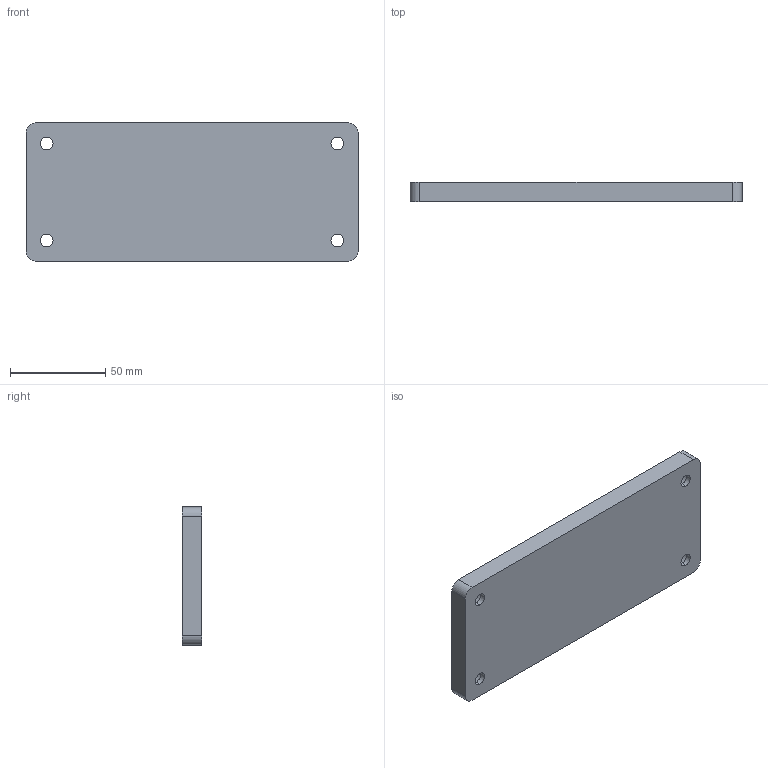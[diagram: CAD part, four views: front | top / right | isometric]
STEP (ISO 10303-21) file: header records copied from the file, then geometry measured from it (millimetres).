
FILE_DESCRIPTION (( 'STEP AP214' ), '1' );
FILE_NAME ('FM3 Press-In Fixture - Base.STEP', '2022-05-27T16:42:28', ( '' ), ( '' ), 'SwSTEP 2.0', 'SolidWorks 2018', '' );
FILE_SCHEMA (( 'AUTOMOTIVE_DESIGN' ));
Length unit declared in the file: millimetre
Products named in the file (1): FM3 Press-In Fixture - Base
Bounding box: 174 x 10 x 72.4 mm (x, y, z)
Volume: 120909.4 mm3; surface area: 33573.2 mm2
Topology: 1 solids, 1 shells, 315 faces, 642 edges, 428 vertices
Faces by surface type: cylinder 210, plane 105
Entity records: 8634 total; most frequent: DIRECTION 1694, CARTESIAN_POINT 1386, ORIENTED_EDGE 1284, AXIS2_PLACEMENT_3D 736, EDGE_CURVE 642, VERTEX_POINT 428, EDGE_LOOP 422, CIRCLE 420
